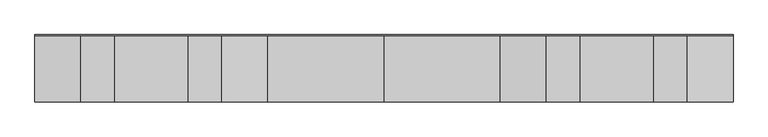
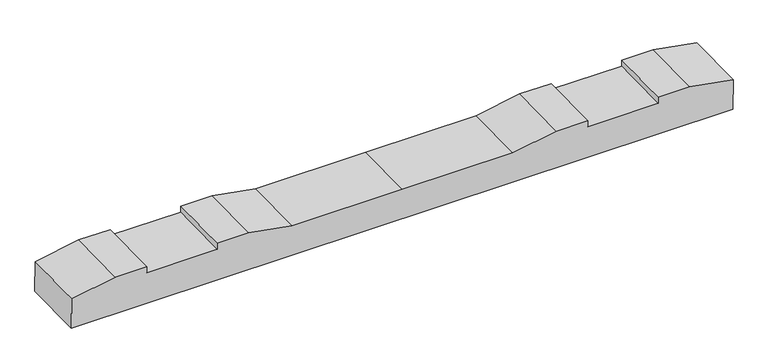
"""IFC4 building model written with IfcOpenShell, lengths in millimetres: proxy geometry, 轨枕-立面角度 : 轨枕-立面角度."""

from ifc_helpers import new_model, si_unit, frame, origin, place, context, project, spatial, polyline, outline, extrude, source, transform, mapped, element, save


def generic_models_1c279534(model_context):
    return source(origin(), model_context, "Body", "SweptSolid", [
        extrude(outline(polyline([(0.0, 0.0), (2099.7669328, 0.0), (2099.7669328, -100.0206889), (1961.8834664, -124.5), (1861.8834664, -124.5), (1861.8834664, -104.5), (1637.8834664, -104.5), (1637.8834664, -124.5), (1537.8834664, -124.5), (1399.8834664, -100.0), (1049.8834664, -100.0), (699.8834664, -100.0), (561.8834664, -124.5), (461.8834664, -124.5), (461.8834664, -104.5), (237.8834664, -104.5), (237.8834664, -124.5), (137.8834664, -124.5), (0.0, -100.0206889), (0.0, 0.0)])), frame((-1049.8834664, -98.0298459, -106.3503611), z_axis=(0.0, 0.9998254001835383, 0.018686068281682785), x_axis=(1.0, 0.0, 0.0)), (0.0, 0.0, 1.0), 200.0),
    ])


if __name__ == "__main__":
    model = new_model("IFC4")
    model_context = context("Model", 3, world=origin())
    ifc_project = project(units=[si_unit("LENGTHUNIT", "METRE", prefix="MILLI")], contexts=[model_context])
    site = spatial("IfcSite", under=ifc_project)
    building = spatial("IfcBuilding", under=site)
    placement = place(None, origin())
    generic_models_shape = generic_models_1c279534(model_context)
    element("IfcBuildingElementProxy", 1, Name="轨枕-立面角度 : 轨枕-立面角度", ObjectType="轨枕-立面角度 : 轨枕-立面角度", at=placement, inside=building, context=model_context, shape_type="MappedRepresentation", body=[
        mapped(generic_models_shape, transform((0.0, 0.0, 0.0), x_axis=(1.0, 0.0, 0.0), y_axis=(0.0, 1.0, 0.0), z_axis=(0.0, 0.0, 1.0))),
    ])
    save(model, "model.ifc")
